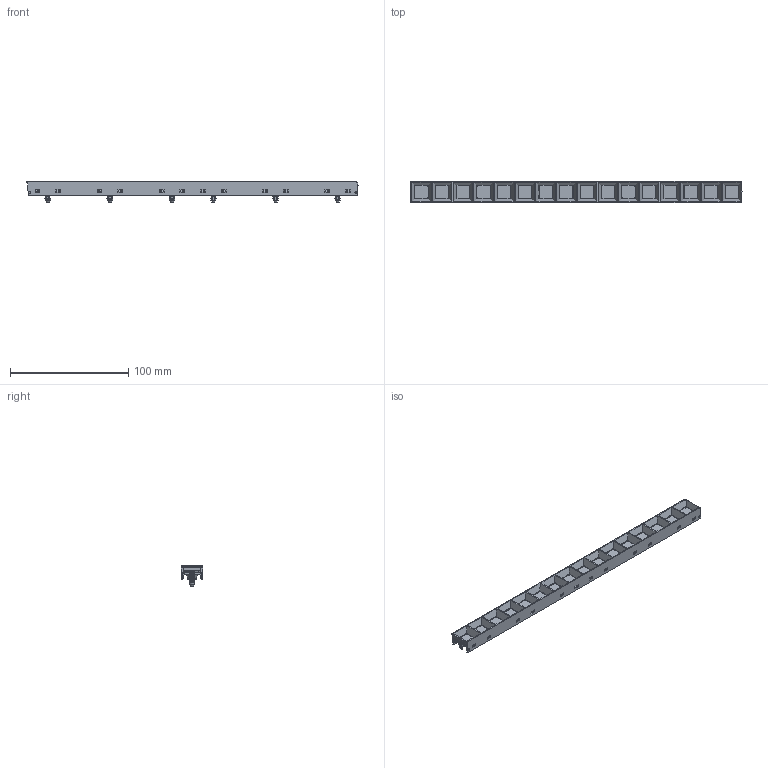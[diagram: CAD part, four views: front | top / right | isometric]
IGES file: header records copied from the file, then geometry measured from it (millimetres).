
Start section: C
Global section: file name: 025-000-0M.igs; native system: By Siemens PLM Incorporated; preprocessor: XPlus GENERIC/IGES 23.0.61; author: Author; organization: Title; date: 20250508.160942; units: millimetre
Bounding box: 280.65 x 18 x 17.4 mm (x, y, z)
Volume: 21355.8 mm3; surface area: 31428.6 mm2
Topology: 3 solids, 3 shells, 3397 faces, 9254 edges, 5898 vertices
Faces by surface type: bspline 3397
